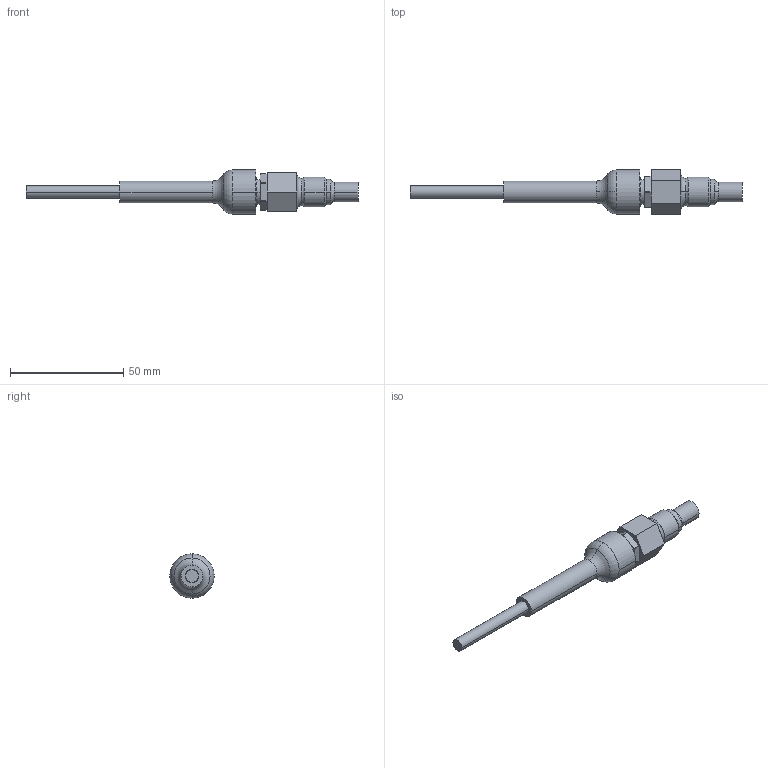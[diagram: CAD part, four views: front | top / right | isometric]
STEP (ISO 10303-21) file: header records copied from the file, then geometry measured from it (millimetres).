
FILE_DESCRIPTION( ( '' ), '1' );
FILE_NAME( '//expscmdclustefs.cadenas.external/client_exchange/iodir/jobs/output/wkb39663330_no0/STEP/sf223a_2_03_56fa68aab0d912ba39a93ed9979b71de.stp', '2011-12-01T09:28:55', ( '' ), ( '' ), ' ', ' ', ' ' );
FILE_SCHEMA( ( 'CONFIG_CONTROL_DESIGN' ) );
Length unit declared in the file: millimetre
Products named in the file (1): 1
Bounding box: 146.7 x 19.63 x 19.6 mm (x, y, z)
Volume: 14148.1 mm3; surface area: 8310.3 mm2
Topology: 1 solids, 1 shells, 72 faces, 175 edges, 115 vertices
Faces by surface type: cylinder 28, plane 24, torus 16, cone 4
Entity records: 2210 total; most frequent: DIRECTION 428, CARTESIAN_POINT 363, ORIENTED_EDGE 350, AXIS2_PLACEMENT_3D 180, EDGE_CURVE 175, VERTEX_POINT 115, CIRCLE 107, EDGE_LOOP 82
